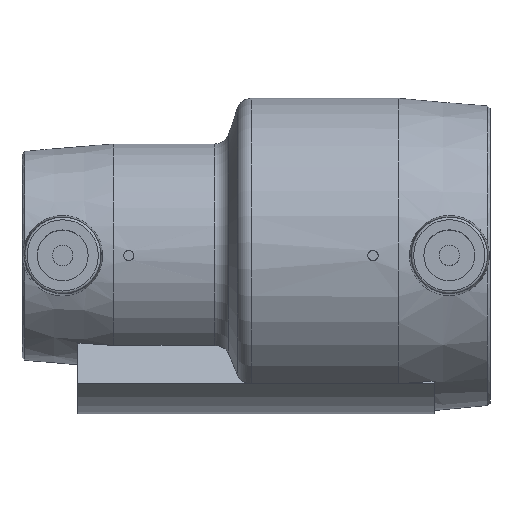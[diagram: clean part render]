
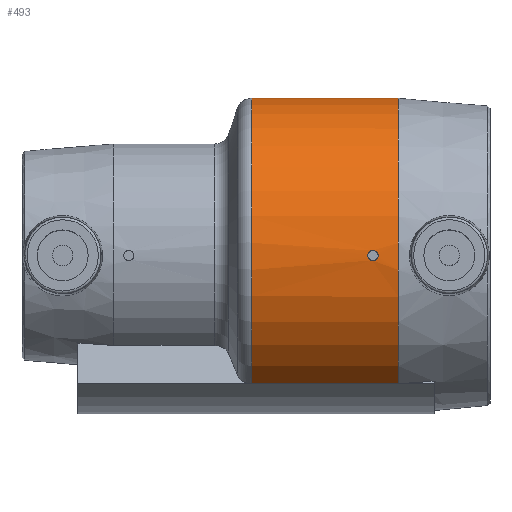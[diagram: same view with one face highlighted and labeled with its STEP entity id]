
A CAD part, top view. The second image highlights one B-rep face of the part: STEP entity #493.
In plain terms, the highlighted cylindrical face has radius 31 mm (diameter 62 mm), a partial arc.
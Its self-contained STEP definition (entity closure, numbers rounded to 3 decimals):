
#39=CYLINDRICAL_SURFACE('',#548,31.);
#52=LINE('',#829,#65);
#53=LINE('',#831,#66);
#65=VECTOR('',#632,1000.);
#66=VECTOR('',#633,1000.);
#79=CIRCLE('',#547,31.);
#80=CIRCLE('',#549,31.);
#119=ORIENTED_EDGE('',*,*,#239,.T.);
#120=ORIENTED_EDGE('',*,*,#240,.F.);
#121=ORIENTED_EDGE('',*,*,#238,.T.);
#122=ORIENTED_EDGE('',*,*,#241,.F.);
#123=ORIENTED_EDGE('',*,*,#242,.T.);
#238=EDGE_CURVE('',#296,#298,#79,.T.);
#239=EDGE_CURVE('',#299,#299,#343,.T.);
#240=EDGE_CURVE('',#296,#300,#52,.T.);
#241=EDGE_CURVE('',#301,#298,#53,.F.);
#242=EDGE_CURVE('',#301,#300,#80,.T.);
#296=VERTEX_POINT('',#810);
#298=VERTEX_POINT('',#814);
#299=VERTEX_POINT('',#828);
#300=VERTEX_POINT('',#830);
#301=VERTEX_POINT('',#832);
#343=B_SPLINE_CURVE_WITH_KNOTS('',3,(#817,#818,#819,#820,#821,#822,#823,
#824,#825,#826,#827),.UNSPECIFIED.,.T.,.F.,(1,1,1,1,1,1,1,1,1,1,1,1,1,1,
1),(-0.002,-0.002,-0.001,0.,0.001,
0.002,0.002,0.003,0.004,
0.005,0.005,0.006,0.007,
0.008,0.009),.UNSPECIFIED.);
#354=EDGE_LOOP('',(#119));
#355=EDGE_LOOP('',(#120,#121,#122,#123));
#420=FACE_BOUND('',#354,.T.);
#421=FACE_BOUND('',#355,.T.);
#493=ADVANCED_FACE('',(#420,#421),#39,.T.);
#547=AXIS2_PLACEMENT_3D('',#815,#628,#629);
#548=AXIS2_PLACEMENT_3D('',#816,#630,#631);
#549=AXIS2_PLACEMENT_3D('',#833,#634,#635);
#628=DIRECTION('',(-1.,0.,0.));
#629=DIRECTION('',(0.,0.,1.));
#630=DIRECTION('',(-1.,0.,0.));
#631=DIRECTION('',(0.,0.,1.));
#632=DIRECTION('',(-1.,0.,0.));
#633=DIRECTION('',(-1.,0.,0.));
#634=DIRECTION('',(1.,0.,0.));
#635=DIRECTION('',(0.,0.,-1.));
#810=CARTESIAN_POINT('',(32.5,-25.192,18.066));
#814=CARTESIAN_POINT('',(32.5,-31.,0.));
#815=CARTESIAN_POINT('',(32.5,0.,0.));
#816=CARTESIAN_POINT('',(-60.,0.,0.));
#817=CARTESIAN_POINT('',(28.283,0.785,30.992));
#818=CARTESIAN_POINT('',(28.608,0.,31.004));
#819=CARTESIAN_POINT('',(28.283,-0.784,30.992));
#820=CARTESIAN_POINT('',(27.501,-1.108,30.98));
#821=CARTESIAN_POINT('',(26.717,-0.784,30.992));
#822=CARTESIAN_POINT('',(26.392,0.,31.004));
#823=CARTESIAN_POINT('',(26.716,0.783,30.992));
#824=CARTESIAN_POINT('',(27.499,1.108,30.98));
#825=CARTESIAN_POINT('',(28.283,0.785,30.992));
#826=CARTESIAN_POINT('',(28.608,0.,31.004));
#827=CARTESIAN_POINT('',(28.283,-0.784,30.992));
#828=CARTESIAN_POINT('',(28.5,0.,31.));
#829=CARTESIAN_POINT('',(-60.,-25.192,18.066));
#830=CARTESIAN_POINT('',(3.662,-25.192,18.066));
#831=CARTESIAN_POINT('',(-60.,-31.,0.));
#832=CARTESIAN_POINT('',(3.662,-31.,0.));
#833=CARTESIAN_POINT('',(3.662,0.,0.));
